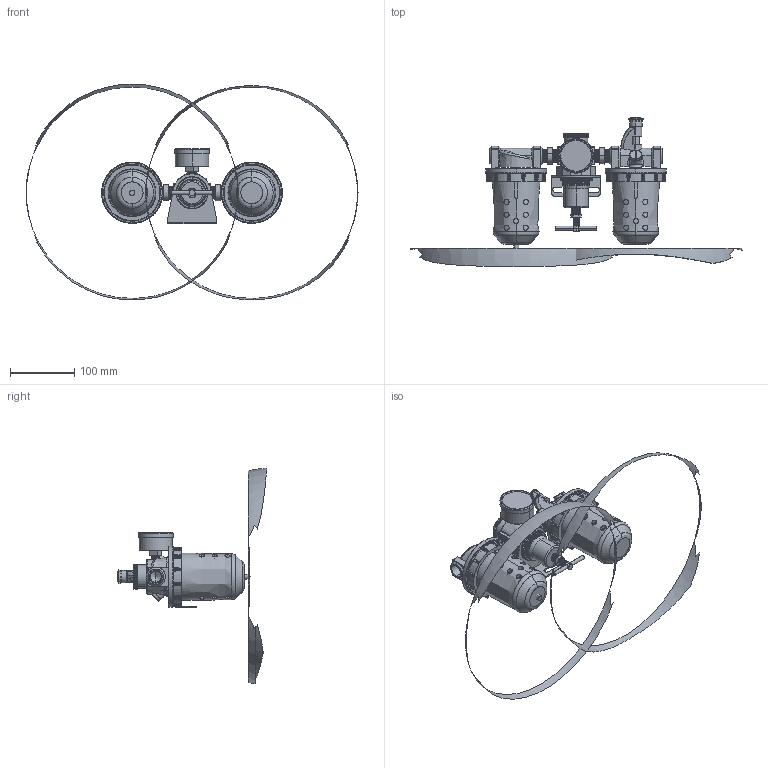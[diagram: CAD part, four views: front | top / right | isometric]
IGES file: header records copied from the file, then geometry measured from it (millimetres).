
Start section: SolidWorks IGES file using analytic representation for surfaces
Global section: file name: D:\Custom\3D繪製\FRL\FRL系列\C668-04#YB#.IGS; native system: SolidWorks 2014; preprocessor: SolidWorks 2014; author: Chieh_Lu; date: 160115.013114; units: millimetre
Bounding box: 518.09 x 233.04 x 336.82 mm (x, y, z)
Surface area: 216006.1 mm2 (no closed solid volume)
Topology: 0 solids, 0 shells, 1644 faces, 23698 edges, 23677 vertices
Faces by surface type: bspline 877, revolution 767
